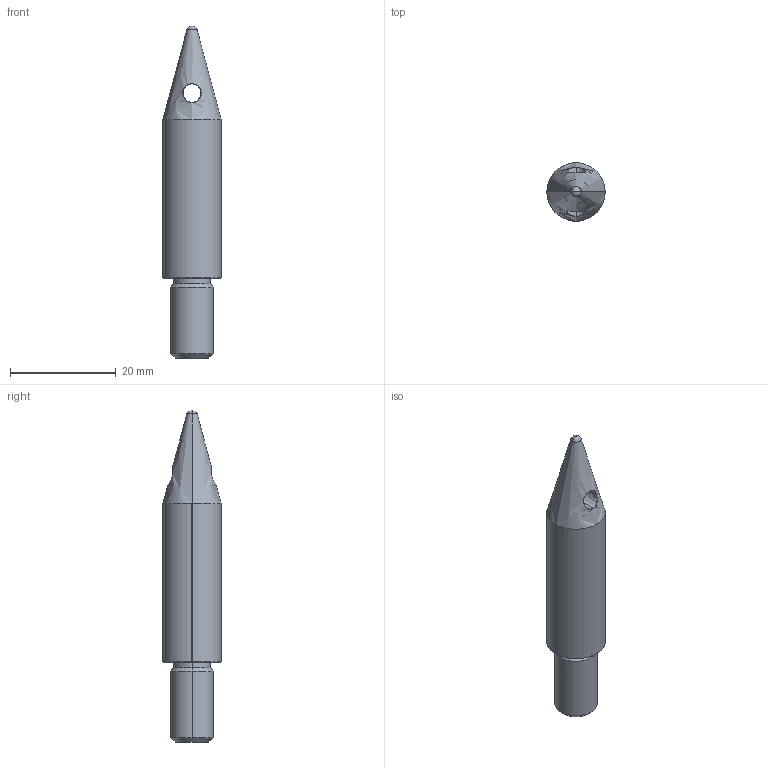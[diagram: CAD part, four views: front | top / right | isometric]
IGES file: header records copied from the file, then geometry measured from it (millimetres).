
Global section: file name: E:\UnigraphicsGraphicData\MISUMI_PRESS-PARTS\IGES\3d_sltlh12-p11.00-b30_02952_r00.igs; native system: NX V5.0; preprocessor: UGS NX IGES V5.0; author: MISUMI; date: 20110105.162834; units: millimetre
Bounding box: 11 x 11 x 62.66 mm (x, y, z)
Surface area: 1936.5 mm2 (no closed solid volume)
Topology: 0 solids, 0 shells, 20 faces, 124 edges, 122 vertices
Faces by surface type: bspline 20
